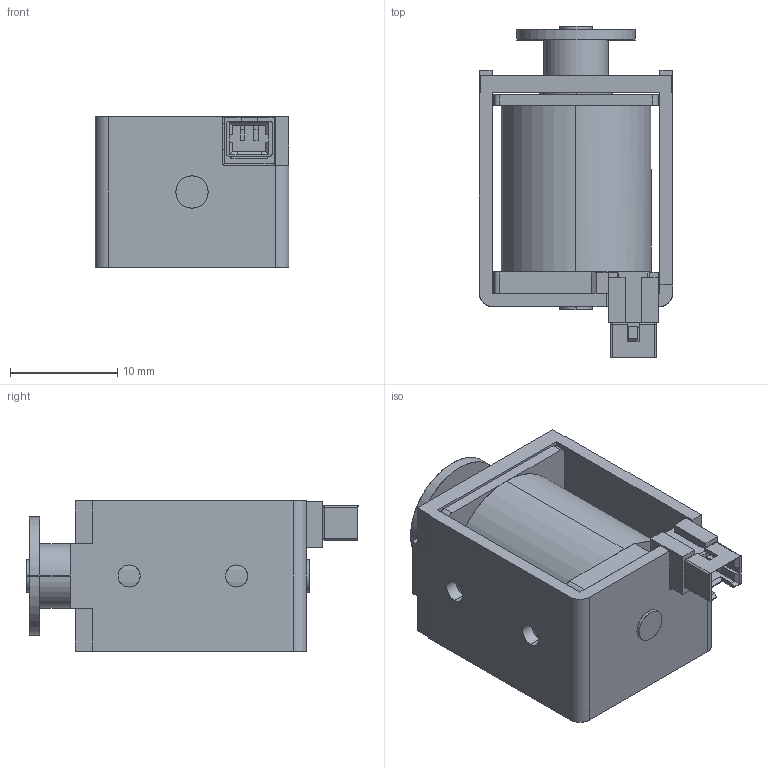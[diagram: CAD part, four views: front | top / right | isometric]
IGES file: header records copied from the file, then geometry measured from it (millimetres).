
Start section: SolidWorks IGES file using analytic representation for surfaces
Global section: file name: L:\カタログ\web用3Dデータ\CFB0622\3D_CFB0622\w_cfb0622.IGS; native system: SolidWorks 2014; preprocessor: SolidWorks 2014; author: jiba; date: 140728.112104; units: millimetre
Bounding box: 18 x 30.9 x 14 mm (x, y, z)
Surface area: 4347.5 mm2 (no closed solid volume)
Topology: 0 solids, 0 shells, 247 faces, 2277 edges, 2276 vertices
Faces by surface type: bspline 193, revolution 54
